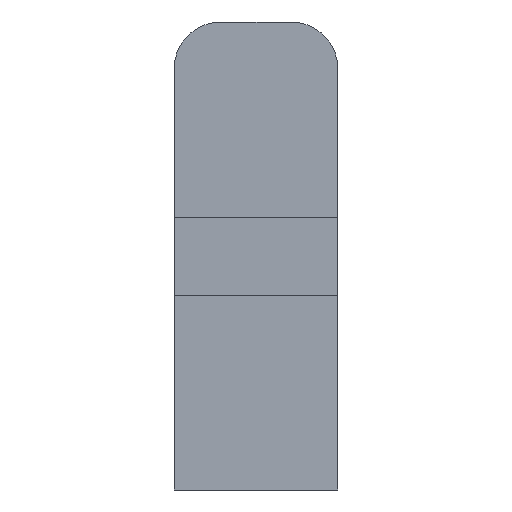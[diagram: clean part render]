
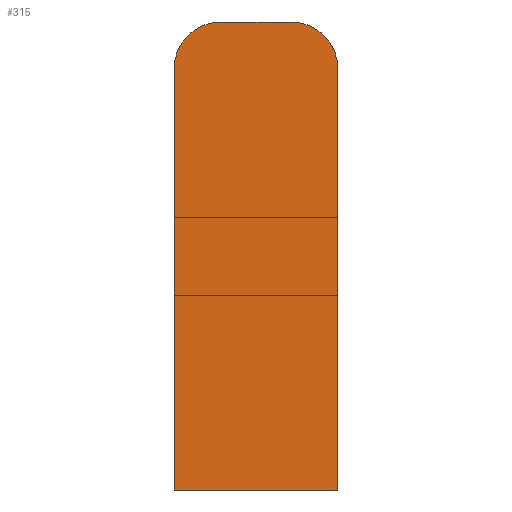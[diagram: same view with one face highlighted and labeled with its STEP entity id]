
A CAD part, front view. The second image highlights one B-rep face of the part: STEP entity #315.
In plain terms, the highlighted planar face has unit normal (0, -1, 0).
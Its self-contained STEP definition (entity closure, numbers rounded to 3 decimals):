
#21 = AXIS2_PLACEMENT_3D ( 'NONE', #215, #218, #219 ) ;
#32 = AXIS2_PLACEMENT_3D ( 'NONE', #111, #110, #191 ) ;
#33 = AXIS2_PLACEMENT_3D ( 'NONE', #119, #125, #126 ) ;
#39 = EDGE_CURVE ( 'NONE', #95, #90, #331, .T. ) ;
#45 = EDGE_CURVE ( 'NONE', #88, #92, #342, .T. ) ;
#46 = EDGE_CURVE ( 'NONE', #92, #83, #338, .T. ) ;
#48 = EDGE_CURVE ( 'NONE', #96, #95, #345, .T. ) ;
#55 = EDGE_CURVE ( 'NONE', #83, #96, #359, .T. ) ;
#58 = EDGE_CURVE ( 'NONE', #90, #88, #365, .T. ) ;
#83 = VERTEX_POINT ( 'NONE', #169 ) ;
#88 = VERTEX_POINT ( 'NONE', #173 ) ;
#90 = VERTEX_POINT ( 'NONE', #175 ) ;
#92 = VERTEX_POINT ( 'NONE', #177 ) ;
#95 = VERTEX_POINT ( 'NONE', #179 ) ;
#96 = VERTEX_POINT ( 'NONE', #180 ) ;
#110 = DIRECTION ( 'NONE',  ( 0., -1., 0. ) ) ;
#111 = CARTESIAN_POINT ( 'NONE',  ( 2.25, 0., 10.5 ) ) ;
#119 = CARTESIAN_POINT ( 'NONE',  ( -2.25, 0., 10.5 ) ) ;
#125 = DIRECTION ( 'NONE',  ( 0., -1., 0. ) ) ;
#126 = DIRECTION ( 'NONE',  ( -1., 0., 0. ) ) ;
#127 = CARTESIAN_POINT ( 'NONE',  ( -5.25, 0., -16.5 ) ) ;
#128 = DIRECTION ( 'NONE',  ( 0., 0., -1. ) ) ;
#131 = CARTESIAN_POINT ( 'NONE',  ( 5.25, 0., -16.5 ) ) ;
#132 = DIRECTION ( 'NONE',  ( 0., 0., 1. ) ) ;
#145 = CARTESIAN_POINT ( 'NONE',  ( 5.25, 0., -16.5 ) ) ;
#146 = DIRECTION ( 'NONE',  ( 1., 0., 0. ) ) ;
#152 = CARTESIAN_POINT ( 'NONE',  ( 2.25, 0., 13.5 ) ) ;
#153 = DIRECTION ( 'NONE',  ( -1., 0., 0. ) ) ;
#169 = CARTESIAN_POINT ( 'NONE',  ( -5.25, 0., -16.5 ) ) ;
#173 = CARTESIAN_POINT ( 'NONE',  ( -2.25, 0., 13.5 ) ) ;
#175 = CARTESIAN_POINT ( 'NONE',  ( 2.25, 0., 13.5 ) ) ;
#177 = CARTESIAN_POINT ( 'NONE',  ( -5.25, 0., 10.5 ) ) ;
#179 = CARTESIAN_POINT ( 'NONE',  ( 5.25, 0., 10.5 ) ) ;
#180 = CARTESIAN_POINT ( 'NONE',  ( 5.25, 0., -16.5 ) ) ;
#191 = DIRECTION ( 'NONE',  ( -1., 0., 0. ) ) ;
#215 = CARTESIAN_POINT ( 'NONE',  ( 0., 0., -1.5 ) ) ;
#216 = PLANE ( 'NONE',  #21 ) ;
#218 = DIRECTION ( 'NONE',  ( 0., 1., 0. ) ) ;
#219 = DIRECTION ( 'NONE',  ( -1., 0., 0. ) ) ;
#253 = EDGE_LOOP ( 'NONE', ( #297, #298, #299, #300, #301, #302 ) ) ;
#297 = ORIENTED_EDGE ( 'NONE', *, *, #48, .T. ) ;
#298 = ORIENTED_EDGE ( 'NONE', *, *, #39, .T. ) ;
#299 = ORIENTED_EDGE ( 'NONE', *, *, #58, .T. ) ;
#300 = ORIENTED_EDGE ( 'NONE', *, *, #45, .T. ) ;
#301 = ORIENTED_EDGE ( 'NONE', *, *, #46, .T. ) ;
#302 = ORIENTED_EDGE ( 'NONE', *, *, #55, .T. ) ;
#315 = ADVANCED_FACE ( 'NONE', ( #387 ), #216, .F. ) ;
#331 = CIRCLE ( 'NONE', #32, 3. ) ;
#338 = LINE ( 'NONE', #127, #339 ) ;
#339 = VECTOR ( 'NONE', #128, 1000. ) ;
#342 = CIRCLE ( 'NONE', #33, 3. ) ;
#345 = LINE ( 'NONE', #131, #346 ) ;
#346 = VECTOR ( 'NONE', #132, 1000. ) ;
#359 = LINE ( 'NONE', #145, #360 ) ;
#360 = VECTOR ( 'NONE', #146, 1000. ) ;
#365 = LINE ( 'NONE', #152, #366 ) ;
#366 = VECTOR ( 'NONE', #153, 1000. ) ;
#387 = FACE_OUTER_BOUND ( 'NONE', #253, .T. ) ;
